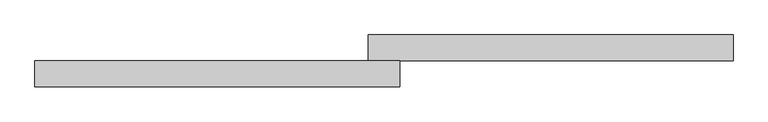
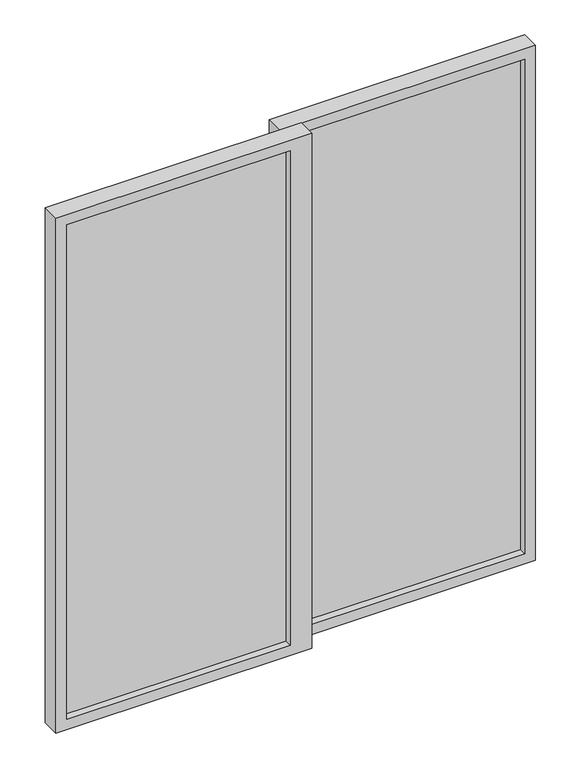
"""IFC4 building model written with IfcOpenShell, lengths in millimetres: plate geometry, 教学楼 - 窗嵌板：双扇推拉窗 : 教学楼 - 窗嵌板：双扇推拉窗."""

from ifc_helpers import new_model, si_unit, frame, origin, place, context, project, spatial, polyline, outline, extrude, source, transform, mapped, element, save


def plate_5ac164bc(model_context):
    return source(origin(), model_context, "Body", "SweptSolid", [
        extrude(outline(polyline([(-30.0, -20.0), (-30.0, -30.0), (-645.0000002, -30.0), (-645.0000002, -20.0), (-30.0, -20.0)])), frame((0.0, 0.0, 30.0), z_axis=(0.0, 0.0, 1.0), x_axis=(1.0, 0.0, 0.0)), (0.0, 0.0, 1.0), 1440.0),
        extrude(outline(polyline([(1500.0, -675.0000002), (0.0, -675.0000002), (0.0, 30.0), (1500.0, 30.0), (1500.0, -675.0000002)]), holes=[polyline([(1470.0, -645.0000002), (1470.0, -30.0), (30.0, -30.0), (30.0, -645.0000002), (1470.0, -645.0000002)])]), frame((0.0, -50.0, 0.0), z_axis=(0.0, 1.0, 0.0), x_axis=(0.0, 0.0, 1.0)), (0.0, 0.0, 1.0), 50.0),
        extrude(outline(polyline([(645.0000002, 30.0), (645.0000002, 20.0), (30.0, 20.0), (30.0, 30.0), (645.0000002, 30.0)])), frame((0.0, 0.0, 30.0), z_axis=(0.0, 0.0, 1.0), x_axis=(1.0, 0.0, 0.0)), (0.0, 0.0, 1.0), 1440.0),
        extrude(outline(polyline([(1500.0, -30.0), (0.0, -30.0), (0.0, 675.0000002), (1500.0, 675.0000002), (1500.0, -30.0)]), holes=[polyline([(1470.0, 30.0), (1470.0, 645.0000002), (30.0, 645.0000002), (30.0, 30.0), (1470.0, 30.0)])]), frame((0.0, 0.0, 0.0), z_axis=(0.0, 1.0, 0.0), x_axis=(0.0, 0.0, 1.0)), (0.0, 0.0, 1.0), 50.0),
    ])


if __name__ == "__main__":
    model = new_model("IFC4")
    model_context = context("Model", 3, world=origin())
    ifc_project = project(units=[si_unit("LENGTHUNIT", "METRE", prefix="MILLI")], contexts=[model_context])
    site = spatial("IfcSite", under=ifc_project)
    building = spatial("IfcBuilding", under=site)
    placement = place(None, origin())
    plate_shape = plate_5ac164bc(model_context)
    element("IfcPlate", 1, ObjectType="教学楼 - 窗嵌板：双扇推拉窗 : 教学楼 - 窗嵌板：双扇推拉窗", at=placement, inside=building, context=model_context, shape_type="MappedRepresentation", body=[
        mapped(plate_shape, transform((0.0, 0.0, 0.0), x_axis=(1.0, 0.0, 0.0), y_axis=(0.0, 1.0, 0.0), z_axis=(0.0, 0.0, 1.0))),
    ])
    save(model, "model.ifc")
